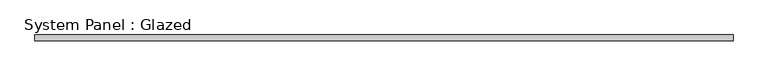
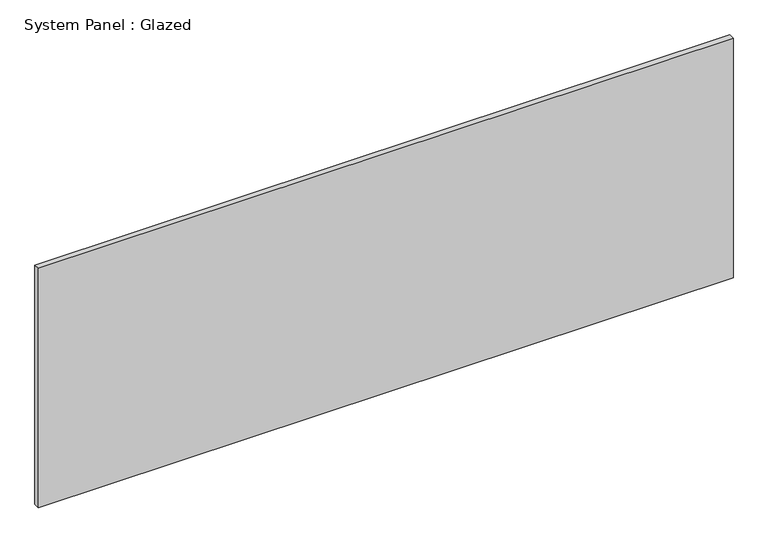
"""IFC4 building model written with IfcOpenShell, lengths in millimetres: plate geometry, System Panel : Glazed."""

from ifc_helpers import new_model, si_unit, origin, origin_with_axes, place, context, project, spatial, polyline, outline, extrude, source, transform, mapped, element, save


def system_panel_glazed_f5baf7a3(model_context):
    return source(origin(), model_context, "Body", "SweptSolid", [
        extrude(outline(polyline([(1507.7197518, 24.5), (-1507.7197518, 24.5), (-1507.7197518, 49.5), (1507.7197518, 49.5), (1507.7197518, 24.5)])), origin_with_axes(), (0.0, 0.0, 1.0), 1098.2453384),
    ])


if __name__ == "__main__":
    model = new_model("IFC4")
    model_context = context("Model", 3, world=origin())
    ifc_project = project(units=[si_unit("LENGTHUNIT", "METRE", prefix="MILLI")], contexts=[model_context])
    site = spatial("IfcSite", under=ifc_project)
    building = spatial("IfcBuilding", under=site)
    placement = place(None, origin())
    system_panel_glazed_shape = system_panel_glazed_f5baf7a3(model_context)
    element("IfcPlate", 1, ObjectType="System Panel : Glazed", at=placement, inside=building, context=model_context, shape_type="MappedRepresentation", body=[
        mapped(system_panel_glazed_shape, transform((0.0, 0.0, 0.0), x_axis=(1.0, 0.0, 0.0), y_axis=(0.0, 1.0, 0.0), z_axis=(0.0, 0.0, 1.0))),
    ])
    save(model, "model.ifc")
